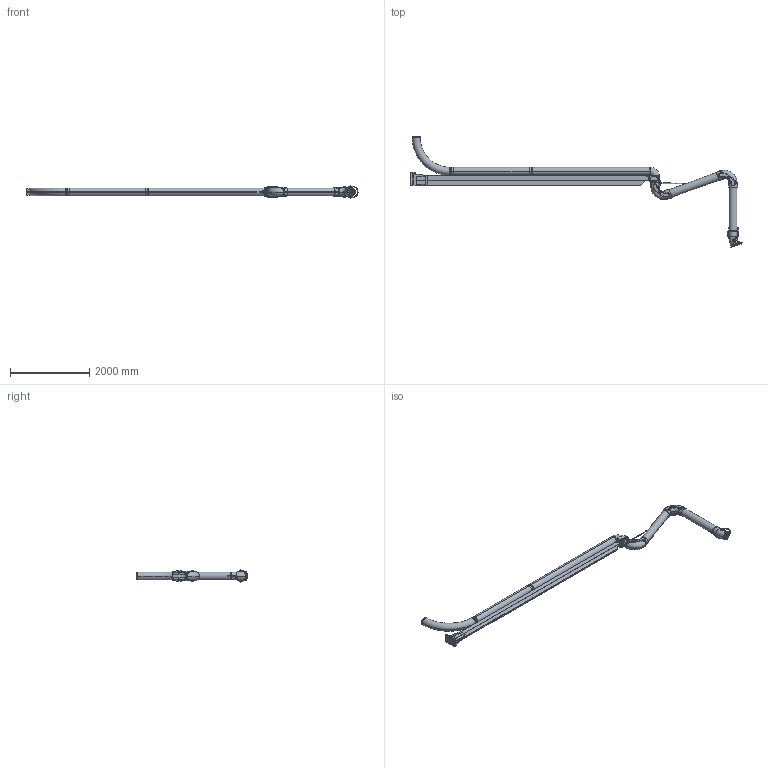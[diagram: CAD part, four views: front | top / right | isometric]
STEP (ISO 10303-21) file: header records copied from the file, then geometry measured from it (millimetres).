
FILE_DESCRIPTION((''),'2;1');
FILE_NAME('138801','2019-03-11T11:46:57',('Gustav Stenberg'),(''),'CREO PARAMETRIC BY PTC INC, 2018260','CREO PARAMETRIC BY PTC INC, 2018260','');
FILE_SCHEMA(('AUTOMOTIVE_DESIGN { 1 0 10303 214 1 1 1 1 }'));
Length unit declared in the file: millimetre
Products named in the file (67): 136203; 136645; 136646; 100-6334-01; 100-6334-04; 100-6334-05; 100-6325-05; 100-6334-02; 100-6334; 100-6333-1; 100-6333-2; 100-6308-3; 100-6333; 100-6308-7; 100-6308-05; 100-6308-4; 9908510; 100-6333_RENAME; 138779; LIGHT_SWIVEL_200_AF2; 126195_AF1; G_PRX_SVIVEL_SPRINGMOUNT; 138753_AF1; 124040; 124041; 105-5481_1; 101156_1; 124045_AF10; 124045_AF11; 124045_AF13; 124045_AF12; 124888; 124897; 124867; 125076; 124875; 124954; 126055_AF32; 124967_AF2; 142700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
Assembly tree (86 placements, depth 6):
  138801
    136646
      136203
      136645
    138779
      100-6334
        100-6334-01
        100-6334-04  x2
        100-6334-05
        100-6325-05
        100-6334-02
      100-6333_RENAME
        100-6333
          100-6333-1
          100-6333-2
          100-6308-3
        100-6308-4
          100-6308-7
          100-6308-05
        9908510
    124978_AF1
      138753_AF1
        126195_AF1
          LIGHT_SWIVEL_200_AF2
        G_PRX_SVIVEL_SPRINGMOUNT
      124045_AF10
        124040
        124041
        101156_1
          105-5481_1
      124045_AF11
        124040
        124041
        101156_1
          105-5481_1
      124967_AF2
        124045_AF13
          124040
          124041
          101156_1
            105-5481_1
        124045_AF12
          124040
          124041
          101156_1
            105-5481_1
        124888
        124954
          124897
          124875
            124867
            125076
        126055_AF32
      142482_AF1
        142700  x2
        142474  x2
        142859
          199-808-200
          142440
          142441
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Bounding box: 8357.49 x 2788.36 x 302.11 mm (x, y, z)
Volume: 74003684.1 mm3; surface area: 19838641.5 mm2
Topology: 64 solids, 64 shells, 1516 faces, 3732 edges, 2415 vertices
Faces by surface type: cylinder 590, plane 584, cone 144, bspline 110, torus 64, sphere 24
Entity records: 54258 total; most frequent: CARTESIAN_POINT 13152, DIRECTION 6033, ORIENTED_EDGE 5288, PRESENTATION_STYLE_ASSIGNMENT 2743, STYLED_ITEM 2743, EDGE_CURVE 2644, AXIS2_PLACEMENT_3D 2342, CURVE_STYLE 2066
